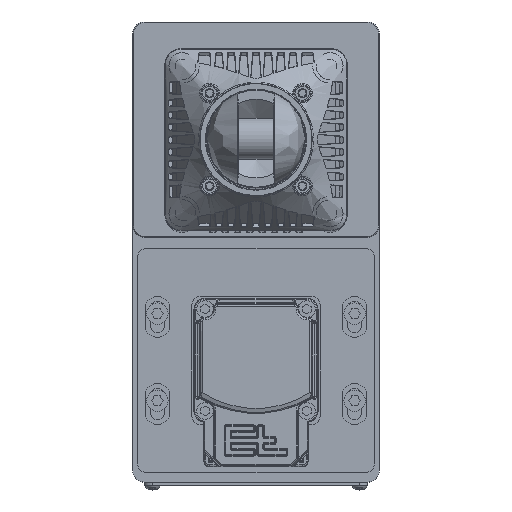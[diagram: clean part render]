
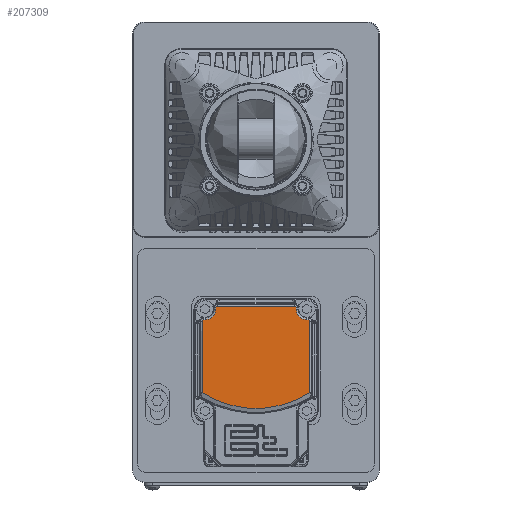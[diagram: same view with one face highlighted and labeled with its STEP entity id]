
A CAD part, top view. The second image highlights one B-rep face of the part: STEP entity #207309.
In plain terms, the highlighted planar face has unit normal (0, 0, 1).
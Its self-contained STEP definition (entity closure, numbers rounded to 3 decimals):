
#2396 = DIRECTION ( 'NONE',  ( -1., 0., 0. ) ) ;
#2948 = CARTESIAN_POINT ( 'NONE',  ( 326.096, 87.372, 448.429 ) ) ;
#6510 = VERTEX_POINT ( 'NONE', #112912 ) ;
#7343 = CARTESIAN_POINT ( 'NONE',  ( 270.579, 86.068, 448.429 ) ) ;
#9856 = CARTESIAN_POINT ( 'NONE',  ( 334.296, 79.172, 448.429 ) ) ;
#10396 = CARTESIAN_POINT ( 'NONE',  ( 268.862, 78.586, 448.429 ) ) ;
#13235 = CARTESIAN_POINT ( 'NONE',  ( 334.296, 35.122, 448.429 ) ) ;
#16873 = CIRCLE ( 'NONE', #154728, 6.483 ) ;
#18918 = CARTESIAN_POINT ( 'NONE',  ( 268.862, 35.763, 448.429 ) ) ;
#21666 = CARTESIAN_POINT ( 'NONE',  ( 332.579, 79.586, 448.429 ) ) ;
#24774 = VERTEX_POINT ( 'NONE', #230423 ) ;
#25794 = ORIENTED_EDGE ( 'NONE', *, *, #198430, .T. ) ;
#25917 = VERTEX_POINT ( 'NONE', #182169 ) ;
#27233 = CARTESIAN_POINT ( 'NONE',  ( 269.862, 79.586, 448.429 ) ) ;
#27346 = EDGE_CURVE ( 'NONE', #6510, #104208, #16873, .T. ) ;
#29970 = CARTESIAN_POINT ( 'NONE',  ( 278.079, 87.786, 448.429 ) ) ;
#34894 = CARTESIAN_POINT ( 'NONE',  ( 333.297, 79.586, 448.429 ) ) ;
#37653 = DIRECTION ( 'NONE',  ( 0., 0., 1. ) ) ;
#39148 = CARTESIAN_POINT ( 'NONE',  ( 277.062, 86.786, 448.429 ) ) ;
#40590 = EDGE_CURVE ( 'NONE', #44219, #205244, #208639, .T. ) ;
#40689 = ORIENTED_EDGE ( 'NONE', *, *, #40590, .T. ) ;
#44219 = VERTEX_POINT ( 'NONE', #62160 ) ;
#45434 = EDGE_LOOP ( 'NONE', ( #71698, #25794, #150298, #217598, #82550, #82594, #40689, #151929, #224606, #196695, #220471, #217155, #173506, #212259 ) ) ;
#47866 = LINE ( 'NONE', #29970, #223945 ) ;
#47918 = EDGE_CURVE ( 'NONE', #93182, #54526, #182059, .T. ) ;
#51742 = AXIS2_PLACEMENT_3D ( 'NONE', #164682, #37653, #234241 ) ;
#54526 = VERTEX_POINT ( 'NONE', #39148 ) ;
#58690 = CARTESIAN_POINT ( 'NONE',  ( 269.879, 79.586, 448.429 ) ) ;
#59087 = VECTOR ( 'NONE', #233542, 1000. ) ;
#62160 = CARTESIAN_POINT ( 'NONE',  ( 332.579, 79.586, 448.429 ) ) ;
#62409 = CARTESIAN_POINT ( 'NONE',  ( 277.062, 86.068, 448.429 ) ) ;
#67306 = CARTESIAN_POINT ( 'NONE',  ( 333.297, 79.586, 448.429 ) ) ;
#68618 =( BOUNDED_CURVE ( )  B_SPLINE_CURVE ( 3, ( #27233, #172290, #84683, #10396 ),
 .UNSPECIFIED., .F., .T. ) 
 B_SPLINE_CURVE_WITH_KNOTS ( ( 4, 4 ),
 ( 2.356, 3.927 ),
 .UNSPECIFIED. ) 
 CURVE ( )  GEOMETRIC_REPRESENTATION_ITEM ( )  RATIONAL_B_SPLINE_CURVE ( ( 1., 0.805, 0.805, 1. ) ) 
 REPRESENTATION_ITEM ( '' )  );
#69753 = EDGE_CURVE ( 'NONE', #118268, #93182, #47866, .T. ) ;
#71148 = FACE_OUTER_BOUND ( 'NONE', #45434, .T. ) ;
#71698 = ORIENTED_EDGE ( 'NONE', *, *, #118516, .T. ) ;
#73783 = EDGE_CURVE ( 'NONE', #193337, #44219, #130800, .T. ) ;
#74444 = CARTESIAN_POINT ( 'NONE',  ( 325.097, 87.786, 448.429 ) ) ;
#75846 = VECTOR ( 'NONE', #149975, 1000. ) ;
#82367 = AXIS2_PLACEMENT_3D ( 'NONE', #96637, #202504, #133918 ) ;
#82550 = ORIENTED_EDGE ( 'NONE', *, *, #190780, .T. ) ;
#82594 = ORIENTED_EDGE ( 'NONE', *, *, #73783, .T. ) ;
#83383 =( BOUNDED_CURVE ( )  B_SPLINE_CURVE ( 3, ( #192041, #9856, #102145, #67306 ),
 .UNSPECIFIED., .F., .T. ) 
 B_SPLINE_CURVE_WITH_KNOTS ( ( 4, 4 ),
 ( 2.356, 3.927 ),
 .UNSPECIFIED. ) 
 CURVE ( )  GEOMETRIC_REPRESENTATION_ITEM ( )  RATIONAL_B_SPLINE_CURVE ( ( 1., 0.805, 0.805, 1. ) ) 
 REPRESENTATION_ITEM ( '' )  );
#84683 = CARTESIAN_POINT ( 'NONE',  ( 268.862, 79.172, 448.429 ) ) ;
#85143 = DIRECTION ( 'NONE',  ( 0., 0., -1. ) ) ;
#86138 = CARTESIAN_POINT ( 'NONE',  ( 269.862, 79.586, 448.429 ) ) ;
#91264 = DIRECTION ( 'NONE',  ( 0., 0., 1. ) ) ;
#93182 = VERTEX_POINT ( 'NONE', #107628 ) ;
#93610 = CARTESIAN_POINT ( 'NONE',  ( 301.579, 86.368, 448.429 ) ) ;
#96637 = CARTESIAN_POINT ( 'NONE',  ( 332.579, 86.068, 448.429 ) ) ;
#101396 = AXIS2_PLACEMENT_3D ( 'NONE', #93610, #91264, #166739 ) ;
#102145 = CARTESIAN_POINT ( 'NONE',  ( 333.882, 79.586, 448.429 ) ) ;
#103076 = DIRECTION ( 'NONE',  ( -1., 0., 0. ) ) ;
#104208 = VERTEX_POINT ( 'NONE', #232465 ) ;
#107628 = CARTESIAN_POINT ( 'NONE',  ( 278.062, 87.786, 448.429 ) ) ;
#111521 = VECTOR ( 'NONE', #230151, 1000. ) ;
#112912 = CARTESIAN_POINT ( 'NONE',  ( 277.062, 86.068, 448.429 ) ) ;
#114451 = CARTESIAN_POINT ( 'NONE',  ( 325.682, 87.786, 448.429 ) ) ;
#115036 = VERTEX_POINT ( 'NONE', #13235 ) ;
#116978 = EDGE_CURVE ( 'NONE', #205244, #24774, #188470, .T. ) ;
#117980 = CARTESIAN_POINT ( 'NONE',  ( 326.096, 86.786, 448.429 ) ) ;
#118268 = VERTEX_POINT ( 'NONE', #74444 ) ;
#118325 = EDGE_CURVE ( 'NONE', #25917, #115036, #158892, .T. ) ;
#118516 = EDGE_CURVE ( 'NONE', #164759, #197732, #68618, .T. ) ;
#125598 = CARTESIAN_POINT ( 'NONE',  ( 277.476, 87.786, 448.429 ) ) ;
#126261 = CARTESIAN_POINT ( 'NONE',  ( 334.296, 78.569, 448.429 ) ) ;
#130800 = LINE ( 'NONE', #21666, #75846 ) ;
#133918 = DIRECTION ( 'NONE',  ( 0., 1., 0. ) ) ;
#134527 = EDGE_CURVE ( 'NONE', #24774, #118268, #214309, .T. ) ;
#136893 = DIRECTION ( 'NONE',  ( 0., 1., 0. ) ) ;
#149975 = DIRECTION ( 'NONE',  ( -1., 0., 0. ) ) ;
#150298 = ORIENTED_EDGE ( 'NONE', *, *, #118325, .T. ) ;
#151929 = ORIENTED_EDGE ( 'NONE', *, *, #116978, .T. ) ;
#154728 = AXIS2_PLACEMENT_3D ( 'NONE', #7343, #85143, #136893 ) ;
#156628 = CARTESIAN_POINT ( 'NONE',  ( 268.862, 78.586, 448.429 ) ) ;
#158892 = CIRCLE ( 'NONE', #101396, 60.8 ) ;
#161275 = VERTEX_POINT ( 'NONE', #166890 ) ;
#164682 = CARTESIAN_POINT ( 'NONE',  ( 264.079, 92.568, 448.429 ) ) ;
#164759 = VERTEX_POINT ( 'NONE', #86138 ) ;
#166739 = DIRECTION ( 'NONE',  ( 0., 1., 0. ) ) ;
#166890 = CARTESIAN_POINT ( 'NONE',  ( 334.296, 78.586, 448.429 ) ) ;
#170571 = CARTESIAN_POINT ( 'NONE',  ( 326.096, 86.769, 448.429 ) ) ;
#172290 = CARTESIAN_POINT ( 'NONE',  ( 269.276, 79.586, 448.429 ) ) ;
#172924 = DIRECTION ( 'NONE',  ( 0., 1., 0. ) ) ;
#173506 = ORIENTED_EDGE ( 'NONE', *, *, #27346, .T. ) ;
#178305 = CARTESIAN_POINT ( 'NONE',  ( 277.062, 86.786, 448.429 ) ) ;
#179139 = PLANE ( 'NONE',  #51742 ) ;
#181376 = EDGE_CURVE ( 'NONE', #104208, #164759, #222933, .T. ) ;
#182059 =( BOUNDED_CURVE ( )  B_SPLINE_CURVE ( 3, ( #214228, #125598, #197484, #178305 ),
 .UNSPECIFIED., .F., .F. ) 
 B_SPLINE_CURVE_WITH_KNOTS ( ( 4, 4 ),
 ( 2.356, 3.927 ),
 .UNSPECIFIED. ) 
 CURVE ( )  GEOMETRIC_REPRESENTATION_ITEM ( )  RATIONAL_B_SPLINE_CURVE ( ( 1., 0.805, 0.805, 1. ) ) 
 REPRESENTATION_ITEM ( '' )  );
#182169 = CARTESIAN_POINT ( 'NONE',  ( 268.862, 35.122, 448.429 ) ) ;
#188470 = LINE ( 'NONE', #170571, #196366 ) ;
#188681 = CARTESIAN_POINT ( 'NONE',  ( 325.097, 87.786, 448.429 ) ) ;
#190780 = EDGE_CURVE ( 'NONE', #161275, #193337, #83383, .T. ) ;
#192041 = CARTESIAN_POINT ( 'NONE',  ( 334.296, 78.586, 448.429 ) ) ;
#193337 = VERTEX_POINT ( 'NONE', #34894 ) ;
#196366 = VECTOR ( 'NONE', #172924, 1000. ) ;
#196695 = ORIENTED_EDGE ( 'NONE', *, *, #69753, .T. ) ;
#197484 = CARTESIAN_POINT ( 'NONE',  ( 277.062, 87.372, 448.429 ) ) ;
#197732 = VERTEX_POINT ( 'NONE', #156628 ) ;
#198430 = EDGE_CURVE ( 'NONE', #197732, #25917, #201152, .T. ) ;
#199363 = DIRECTION ( 'NONE',  ( 0., 1., 0. ) ) ;
#201152 = LINE ( 'NONE', #18918, #59087 ) ;
#201722 = VECTOR ( 'NONE', #2396, 1000. ) ;
#202504 = DIRECTION ( 'NONE',  ( 0., 0., -1. ) ) ;
#205244 = VERTEX_POINT ( 'NONE', #207835 ) ;
#207309 = ADVANCED_FACE ( 'NONE', ( #71148 ), #179139, .T. ) ;
#207835 = CARTESIAN_POINT ( 'NONE',  ( 326.096, 86.068, 448.429 ) ) ;
#208639 = CIRCLE ( 'NONE', #82367, 6.483 ) ;
#208645 = LINE ( 'NONE', #62409, #111521 ) ;
#209375 = EDGE_CURVE ( 'NONE', #115036, #161275, #217274, .T. ) ;
#211726 = EDGE_CURVE ( 'NONE', #54526, #6510, #208645, .T. ) ;
#212259 = ORIENTED_EDGE ( 'NONE', *, *, #181376, .T. ) ;
#214228 = CARTESIAN_POINT ( 'NONE',  ( 278.062, 87.786, 448.429 ) ) ;
#214309 =( BOUNDED_CURVE ( )  B_SPLINE_CURVE ( 3, ( #117980, #2948, #114451, #188681 ),
 .UNSPECIFIED., .F., .T. ) 
 B_SPLINE_CURVE_WITH_KNOTS ( ( 4, 4 ),
 ( 2.356, 3.927 ),
 .UNSPECIFIED. ) 
 CURVE ( )  GEOMETRIC_REPRESENTATION_ITEM ( )  RATIONAL_B_SPLINE_CURVE ( ( 1., 0.805, 0.805, 1. ) ) 
 REPRESENTATION_ITEM ( '' )  );
#217155 = ORIENTED_EDGE ( 'NONE', *, *, #211726, .T. ) ;
#217274 = LINE ( 'NONE', #126261, #221020 ) ;
#217598 = ORIENTED_EDGE ( 'NONE', *, *, #209375, .T. ) ;
#220471 = ORIENTED_EDGE ( 'NONE', *, *, #47918, .T. ) ;
#221020 = VECTOR ( 'NONE', #199363, 1000. ) ;
#222933 = LINE ( 'NONE', #58690, #201722 ) ;
#223945 = VECTOR ( 'NONE', #103076, 1000. ) ;
#224606 = ORIENTED_EDGE ( 'NONE', *, *, #134527, .T. ) ;
#230151 = DIRECTION ( 'NONE',  ( 0., -1., 0. ) ) ;
#230423 = CARTESIAN_POINT ( 'NONE',  ( 326.096, 86.786, 448.429 ) ) ;
#232465 = CARTESIAN_POINT ( 'NONE',  ( 270.579, 79.586, 448.429 ) ) ;
#233542 = DIRECTION ( 'NONE',  ( 0., -1., 0. ) ) ;
#234241 = DIRECTION ( 'NONE',  ( 0., 1., 0. ) ) ;
